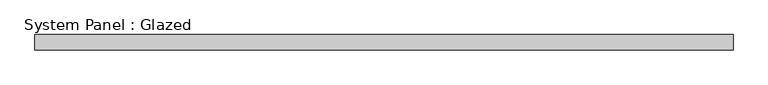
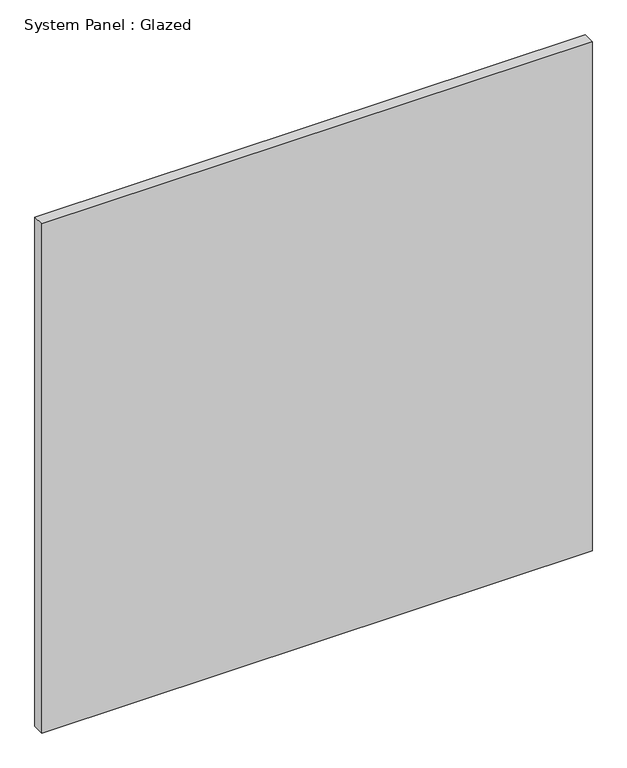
"""IFC4 building model written with IfcOpenShell, lengths in millimetres: plate geometry, System Panel : Glazed."""

from ifc_helpers import new_model, si_unit, origin, origin_with_axes, place, context, project, spatial, polyline, outline, extrude, source, transform, mapped, element, save


def system_panel_glazed_cea579cb(model_context):
    return source(origin(), model_context, "Body", "SweptSolid", [
        extrude(outline(polyline([(575.0000001, 24.5), (-575.0000001, 24.5), (-575.0000001, 49.5), (575.0000001, 49.5), (575.0000001, 24.5)])), origin_with_axes(), (0.0, 0.0, 1.0), 1125.0),
    ])


if __name__ == "__main__":
    model = new_model("IFC4")
    model_context = context("Model", 3, world=origin())
    ifc_project = project(units=[si_unit("LENGTHUNIT", "METRE", prefix="MILLI")], contexts=[model_context])
    site = spatial("IfcSite", under=ifc_project)
    building = spatial("IfcBuilding", under=site)
    placement = place(None, origin())
    system_panel_glazed_shape = system_panel_glazed_cea579cb(model_context)
    element("IfcPlate", 1, ObjectType="System Panel : Glazed", at=placement, inside=building, context=model_context, shape_type="MappedRepresentation", body=[
        mapped(system_panel_glazed_shape, transform((0.0, 0.0, 0.0), x_axis=(1.0, 0.0, 0.0), y_axis=(0.0, 1.0, 0.0), z_axis=(0.0, 0.0, 1.0))),
    ])
    save(model, "model.ifc")
